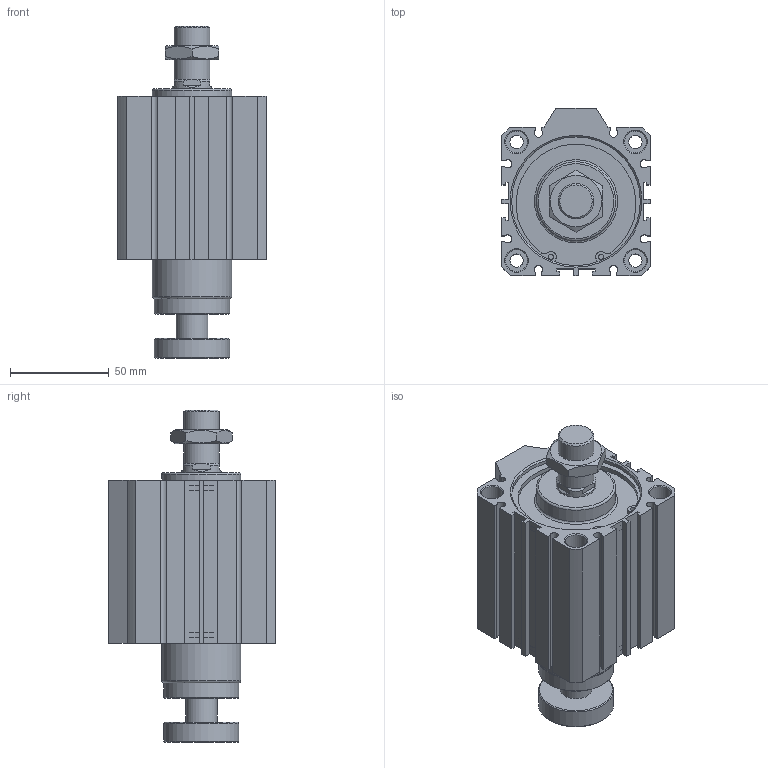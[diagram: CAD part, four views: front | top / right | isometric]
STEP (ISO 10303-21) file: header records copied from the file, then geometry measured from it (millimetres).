
FILE_DESCRIPTION((''),'2;1');
FILE_NAME('I:\3D電子目錄\氣缸\JDAR\JDAR-B\JDAR63-B\JDAR63x50-B.stp','2007-05-05T08:29:18',('662F206'),(''),'Autodesk Inventor 11','Autodesk Inventor 11','');
FILE_SCHEMA(('AUTOMOTIVE_DESIGN { 1 0 10303 214 1 1 1 1 }'));
Length unit declared in the file: millimetre
Products named in the file (3): JDAR63-B; R 形環 65
Assembly tree (3 placements, depth 2):
  JDAR63-B
    JDAR63-B
    R 形環 65  x2
Bounding box: 75 x 84.5 x 167.8 mm (x, y, z)
Volume: 482426.2 mm3; surface area: 75158.3 mm2
Topology: 3 solids, 3 shells, 201 faces, 487 edges, 317 vertices
Faces by surface type: plane 117, cylinder 56, cone 24, bspline 2, torus 2
Full cylindrical faces by diameter (mm): 2.7 x4, 3 x2, 6.8 x4, 11 x8, 16 x1, 18 x2, 20 x1, 38 x2, 40 x2, 65 x4, 68 x2
Entity records: 5349 total; most frequent: CARTESIAN_POINT 1011, DIRECTION 894, ORIENTED_EDGE 794, EDGE_CURVE 397, AXIS2_PLACEMENT_3D 324, VERTEX_POINT 291, EDGE_LOOP 280, VECTOR 246
